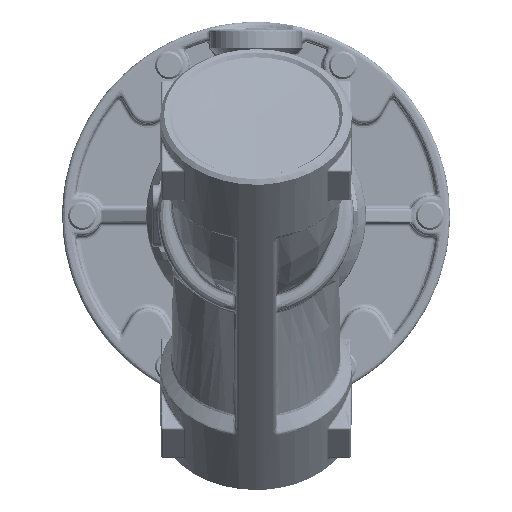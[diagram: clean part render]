
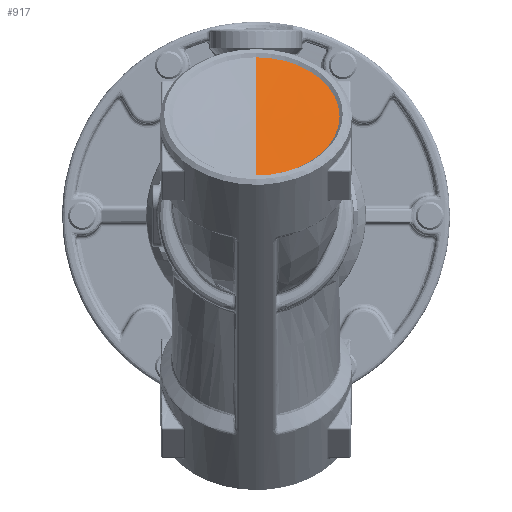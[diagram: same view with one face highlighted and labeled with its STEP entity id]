
A CAD part, front view. The second image highlights one B-rep face of the part: STEP entity #917.
In plain terms, the highlighted free-form (B-spline) face has degree [2, 1] with [5, 2] control points.
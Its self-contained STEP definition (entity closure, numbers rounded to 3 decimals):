
#917=ADVANCED_FACE('',(#7864),#7863,.F.);
#7863=( BOUNDED_SURFACE() B_SPLINE_SURFACE( 2,1,((#29457,#29458),(#29459,#29460),(#29461,#29462),(#29463,#29464),(#29465,#29466)), .UNSPECIFIED.,.F.,.F.,.F.) B_SPLINE_SURFACE_WITH_KNOTS((3,2,3),(2,2),(0.,0.5,1.),(0.,1.), .UNSPECIFIED. ) GEOMETRIC_REPRESENTATION_ITEM() RATIONAL_B_SPLINE_SURFACE(((1.,1.),(0.707,0.707),(1.,1.),(0.707,0.707),(1.,1.))) REPRESENTATION_ITEM('') SURFACE() );
#7864=FACE_OUTER_BOUND('',#29467,.T.);
#29457=CARTESIAN_POINT('',(34.884,0.,0.));
#29458=CARTESIAN_POINT('',(35.331,-29.557,0.));
#29459=CARTESIAN_POINT('',(34.884,0.,0.));
#29460=CARTESIAN_POINT('',(35.331,-29.557,-29.557));
#29461=CARTESIAN_POINT('',(34.884,0.,0.));
#29462=CARTESIAN_POINT('',(35.331,0.,-29.557));
#29463=CARTESIAN_POINT('',(34.884,0.,0.));
#29464=CARTESIAN_POINT('',(35.331,29.557,-29.557));
#29465=CARTESIAN_POINT('',(34.884,0.,0.));
#29466=CARTESIAN_POINT('',(35.331,29.557,0.));
#29467=EDGE_LOOP('',(#53053,#53054,#53055));
#53053=ORIENTED_EDGE('',*,*,#58225,.T.);
#53054=ORIENTED_EDGE('',*,*,#58208,.T.);
#53055=ORIENTED_EDGE('',*,*,#58226,.F.);
#58208=EDGE_CURVE('',#69642,#69641,#69661,.T.);
#58225=EDGE_CURVE('',#69770,#69642,#69771,.T.);
#58226=EDGE_CURVE('',#69770,#69641,#69777,.T.);
#69641=VERTEX_POINT('',#91916);
#69642=VERTEX_POINT('',#91917);
#69661=CIRCLE('',#91929,20.9);
#69770=VERTEX_POINT('',#91981);
#69771=(BOUNDED_CURVE() B_SPLINE_CURVE(1,(#91982,#91983),.UNSPECIFIED.,.F.,.F.) B_SPLINE_CURVE_WITH_KNOTS((2,2),(0.,0.707),.UNSPECIFIED.) CURVE() GEOMETRIC_REPRESENTATION_ITEM() RATIONAL_B_SPLINE_CURVE((1.,1.)) REPRESENTATION_ITEM('') );
#69777=(BOUNDED_CURVE() B_SPLINE_CURVE(1,(#91984,#91985),.UNSPECIFIED.,.F.,.F.) B_SPLINE_CURVE_WITH_KNOTS((2,2),(0.,0.707),.UNSPECIFIED.) CURVE() GEOMETRIC_REPRESENTATION_ITEM() RATIONAL_B_SPLINE_CURVE((0.75,0.75)) REPRESENTATION_ITEM('') );
#91916=CARTESIAN_POINT('',(35.2,20.9,0.));
#91917=CARTESIAN_POINT('',(35.2,-20.9,0.));
#91926=CARTESIAN_POINT('',(35.2,0.,0.));
#91927=DIRECTION('',(1.,0.,0.));
#91928=DIRECTION('',(0.,1.,0.));
#91929=AXIS2_PLACEMENT_3D('',#91926,#91927,#91928);
#91981=CARTESIAN_POINT('',(34.884,0.,0.));
#91982=CARTESIAN_POINT('',(34.884,0.,0.));
#91983=CARTESIAN_POINT('',(35.2,-20.9,0.));
#91984=CARTESIAN_POINT('',(34.884,0.,0.));
#91985=CARTESIAN_POINT('',(35.2,20.9,0.));
